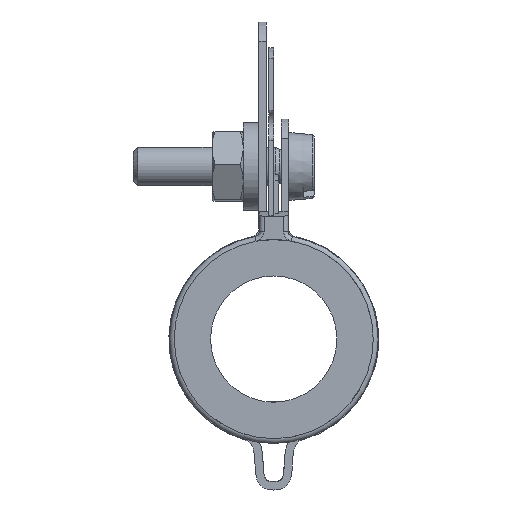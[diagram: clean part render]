
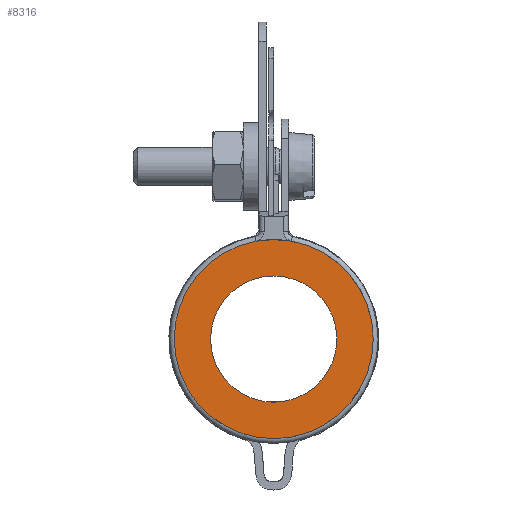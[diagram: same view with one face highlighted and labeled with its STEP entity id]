
A CAD part, front view. The second image highlights one B-rep face of the part: STEP entity #8316.
In plain terms, the highlighted planar face has unit normal (0, -1, 0).
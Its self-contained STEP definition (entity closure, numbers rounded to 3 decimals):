
#1609=FACE_BOUND($,#2624,.T.);
#2053=FACE_OUTER_BOUND($,#2623,.T.);
#2623=EDGE_LOOP($,(#6996));
#2624=EDGE_LOOP($,(#6997));
#3039=CIRCLE($,#9102,10.25);
#3044=CIRCLE($,#9178,6.5);
#3749=VERTEX_POINT($,#14059);
#3760=VERTEX_POINT($,#14156);
#4827=EDGE_CURVE($,#3749,#3749,#3039,.T.);
#4842=EDGE_CURVE($,#3760,#3760,#3044,.T.);
#6996=ORIENTED_EDGE($,*,*,#4827,.T.);
#6997=ORIENTED_EDGE($,*,*,#4842,.T.);
#7391=PLANE($,#9181);
#8316=ADVANCED_FACE($,(#2053,#1609),#7391,.T.);
#9102=AXIS2_PLACEMENT_3D($,#14060,#11362,#11363);
#9178=AXIS2_PLACEMENT_3D($,#14157,#11524,#11525);
#9181=AXIS2_PLACEMENT_3D($,#14160,#11530,#11531);
#11362=DIRECTION('center_axis',(0.,-1.,0.));
#11363=DIRECTION('ref_axis',(-1.,0.,0.));
#11524=DIRECTION('center_axis',(0.,1.,0.));
#11525=DIRECTION('ref_axis',(1.,0.,0.));
#11530=DIRECTION('center_axis',(0.,-1.,0.));
#11531=DIRECTION('ref_axis',(0.,0.,-1.));
#14059=CARTESIAN_POINT('',(10.25,0.,0.));
#14060=CARTESIAN_POINT('Origin',(0.,0.,0.));
#14156=CARTESIAN_POINT('',(-6.5,0.,0.));
#14157=CARTESIAN_POINT('Origin',(0.,0.,0.));
#14160=CARTESIAN_POINT('Origin',(0.,0.,0.));
